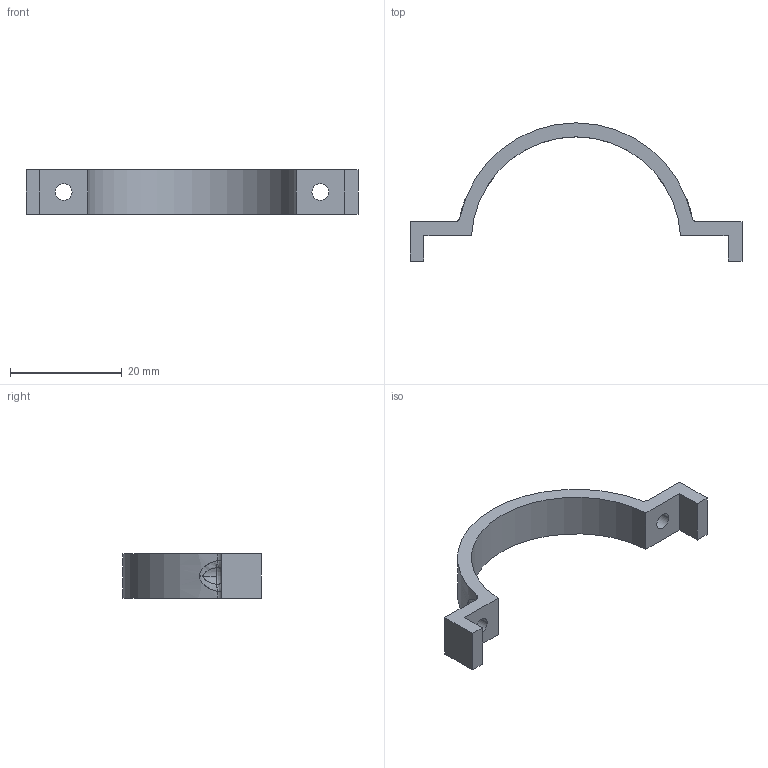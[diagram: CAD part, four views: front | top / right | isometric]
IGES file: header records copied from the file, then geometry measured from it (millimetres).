
Start section: START RECORD GO HERE.
Global section: file name: Luftpumpe_Halter_Oberteil.igs; native system: IBM CATIA IGES - CATIA Version 5 Release 19 ; preprocessor: CATIA Version 5 Release 19 ; author: Administrator; organization: M0000815; date: 20230330.202851; units: millimetre
Bounding box: 59.5 x 24.75 x 8 mm (x, y, z)
Surface area: 1889.4 mm2 (no closed solid volume)
Topology: 0 solids, 0 shells, 36 faces, 188 edges, 188 vertices
Faces by surface type: revolution 16, plane 12, bspline 8
